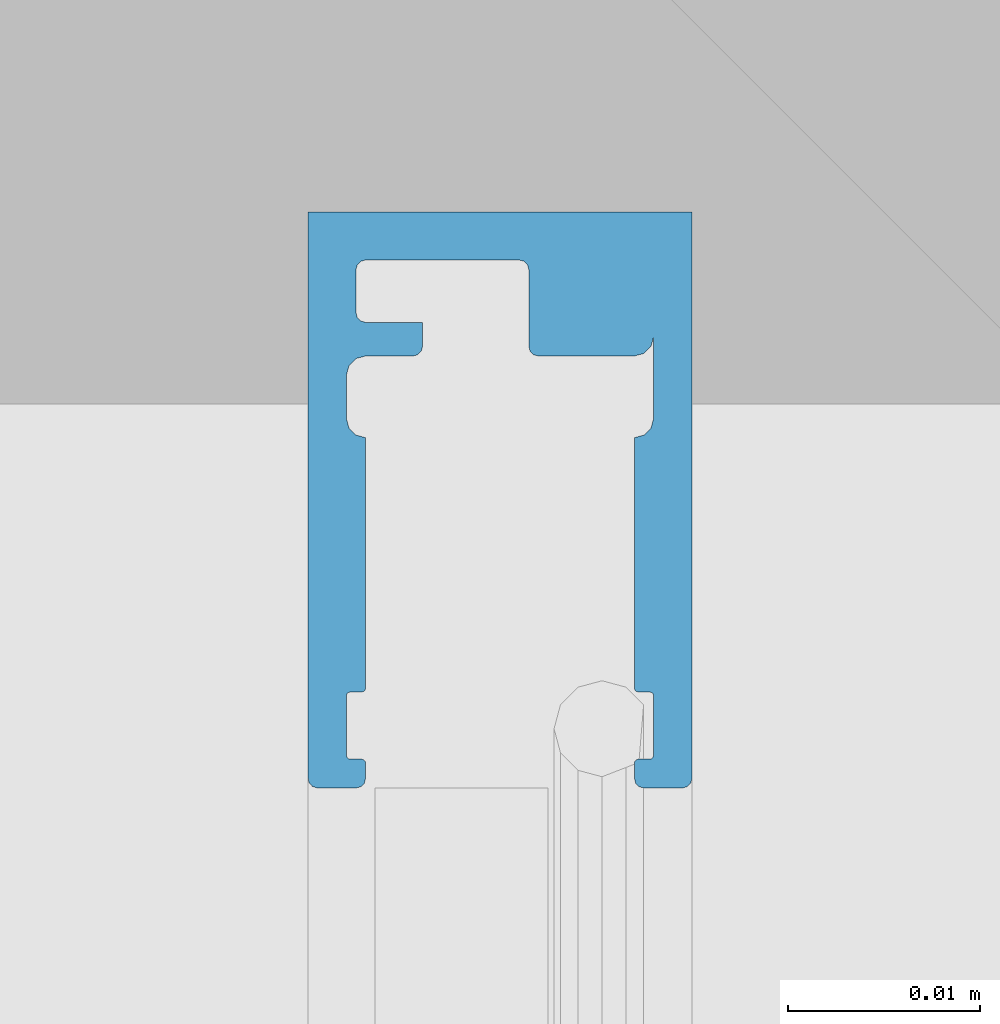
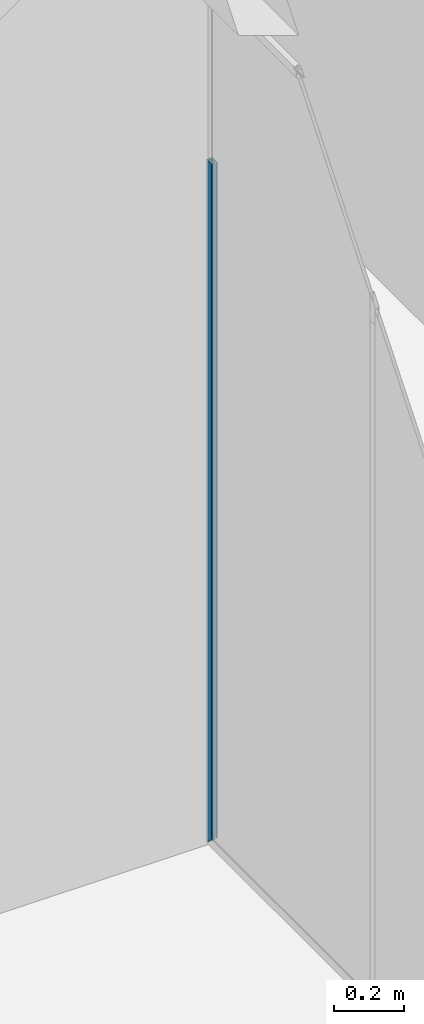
# One storey, part 50 of 387: 1 building element part, 2 elements without a shape of their own.
"""IFC2X3 building model written with IfcOpenShell, lengths in millimetres."""

from ifc_helpers import new_model, entity, si_unit, converted_unit, derived_unit, money_unit, direction, frame, origin_with_axes, place, context, subcontext, project, spatial, faceted_brep, source, transform, mapped, material, type_object, element, aggregate, save


model = new_model("IFC2X3")

# Units and contexts
model_context = context("Model", 3, precision=0.01, world=origin_with_axes(), true_north=direction((0.0, 1.0)))
body_context = subcontext(model_context, "Body", "Model", "MODEL_VIEW")
ifc_project = project(units=[si_unit("LENGTHUNIT", "METRE", prefix="MILLI"), si_unit("AREAUNIT", "SQUARE_METRE"), si_unit("VOLUMEUNIT", "CUBIC_METRE"), converted_unit("PLANEANGLEUNIT", "DEGREE", entity("IfcPlaneAngleMeasure", 0.0174532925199), si_unit("PLANEANGLEUNIT", "RADIAN"), dimensions=[0, 0, 0, 0, 0, 0, 0]), si_unit("SOLIDANGLEUNIT", "STERADIAN"), money_unit("EUR"), converted_unit("TIMEUNIT", "Year", entity("IfcTimeMeasure", 31556926.0), si_unit("TIMEUNIT", "SECOND"), dimensions=[0, 0, 1, 0, 0, 0, 0]), si_unit("MASSUNIT", "GRAM", prefix="KILO"), si_unit("THERMODYNAMICTEMPERATUREUNIT", "DEGREE_CELSIUS"), si_unit("LUMINOUSINTENSITYUNIT", "LUMEN"), si_unit("ENERGYUNIT", "JOULE", prefix="MEGA"), derived_unit("THERMALCONDUCTANCEUNIT", [(si_unit("POWERUNIT", "WATT"), 1), (si_unit("LENGTHUNIT", "METRE"), -1), (si_unit("THERMODYNAMICTEMPERATUREUNIT", "KELVIN"), -1)]), derived_unit("SPECIFICHEATCAPACITYUNIT", [(si_unit("ENERGYUNIT", "JOULE"), 1), (si_unit("MASSUNIT", "GRAM", prefix="KILO"), -1), (si_unit("THERMODYNAMICTEMPERATUREUNIT", "KELVIN"), -1)]), derived_unit("MASSDENSITYUNIT", [(si_unit("MASSUNIT", "GRAM", prefix="KILO"), 1), (si_unit("VOLUMEUNIT", "CUBIC_METRE"), -1)])], contexts=[model_context])

# Site, building, storey
site_placement = place(None, origin_with_axes())
site = spatial("IfcSite", under=ifc_project, at=site_placement, Name="Puškini 31, Narva", CompositionType="ELEMENT")
building_placement = place(site_placement, origin_with_axes())
building = spatial("IfcBuilding", under=site, at=building_placement, Name="Narva Riigigümnaasium", CompositionType="ELEMENT")
storey_placement = place(building_placement, frame((0.0, 0.0, 2640.0), z_axis=(0.0, 0.0, 1.0), x_axis=(1.0, 0.0, 0.0)))
storey = spatial("IfcBuildingStorey", under=building, at=storey_placement, Name="2.korrus +2.64", CompositionType="ELEMENT", Elevation=2640.0)

# Curtain wall, member, building element part
curtain_wall_type = type_object("IfcCurtainWallType", Name="Curtain Wall Type", PredefinedType="NOTDEFINED")
curtain_wall_placement = place(storey_placement, frame((28369.9999994, 164166.500006, -9.21871734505e-06), z_axis=(0.0, 0.0, 1.0), x_axis=(1.0, 0.0, 0.0)))
curtain_wall = element("IfcCurtainWall", 1, at=curtain_wall_placement, inside=storey, type_object=curtain_wall_type, Name="G-SKLF-11")
member_type = type_object("IfcMemberType", Name="30 x 10", PredefinedType="MULLION")
member_placement = place(curtain_wall_placement, frame((4.14992484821e-08, 2333.4999946, 0.0), z_axis=(0.0, 0.0, 1.0), x_axis=(0.0, -1.0, 0.0)))
member = element("IfcMember", 2, at=member_placement, type_object=member_type, Name="G-SKLF-15-raam", ObjectType="MULLION")
aggregate(curtain_wall, [member])
ifc_material = material(Name="ET-04_Alumiinium")
shared_shape = source(origin_with_axes(), body_context, "Body", "Brep", [
    faceted_brep([(0.0, -9.99999999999, 0.0), (0.0, -9.99999999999, 2400.00000922), (0.0, 9.99999999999, 2400.00000922), (0.0, 9.99999999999, 0.0), (29.4424074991, -9.99999999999, 29.4424074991), (29.4424074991, -9.99999999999, 2400.00000922), (29.7157683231, -9.95182408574, 2400.00000922), (29.9224245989, -9.76651288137, 2400.00000922), (30.0, -9.5, 2400.00000922), (30.0, -7.49999999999, 2400.00000922), (29.9330127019, -7.24999999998, 2400.00000922), (29.75, -7.06698729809, 2400.00000922), (29.5, -6.99999999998, 2400.00000922), (28.7, -6.99999999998, 2400.00000922), (28.6, -7.02679491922, 2400.00000922), (28.5267949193, -7.09999999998, 2400.00000922), (28.5, -7.19999999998, 2400.00000922), (28.5, -7.79999999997, 2400.00000922), (28.4732050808, -7.89999999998, 2400.00000922), (28.4, -7.97320508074, 2400.00000922), (28.3, -7.99999999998, 2400.00000922), (25.2, -7.99999999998, 2400.00000922), (25.1, -7.97320508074, 2400.00000922), (25.0267949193, -7.89999999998, 2400.00000922), (25.0, -7.79999999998, 2400.00000922), (25.0, -7.20000000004, 2400.00000922), (24.9732050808, -7.10000000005, 2400.00000922), (24.9, -7.02679491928, 2400.00000922), (24.8, -7.00000000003, 2400.00000922), (11.7527616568, -6.99999999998, 2400.00000922), (11.6187870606, -7.49999999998, 2400.00000922), (11.2527616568, -7.86602540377, 2400.00000922), (10.7527616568, -7.99999999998, 2400.00000922), (8.49999999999, -8.00000000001, 2400.00000922), (7.99999999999, -7.86602540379, 2400.00000922), (7.63397459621, -7.50000000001, 2400.00000922), (7.49999999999, -7.00000000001, 2400.00000922), (7.49999999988, -4.5336921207, 2400.00000922), (7.43301270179, -4.28369212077, 2400.00000922), (7.24999999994, -4.10067941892, 2400.00000922), (7.0, -4.03369212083, 2400.00000922), (5.74723834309, -4.03369212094, 2400.00000922), (5.7472383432, -6.99999999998, 2400.00000922), (5.6802510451, -7.24999999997, 2400.00000922), (5.49723834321, -7.43301270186, 2400.00000922), (5.24723834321, -7.49999999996, 2400.00000922), (3.0, -7.49999999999, 2400.00000922), (2.75, -7.43301270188, 2400.00000922), (2.56698729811, -7.24999999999, 2400.00000922), (2.5, -6.99999999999, 2400.00000922), (2.5, 1.00339466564, 2400.00000922), (2.56811176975, 1.25195735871, 2400.00000922), (2.75096907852, 1.43357737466, 2400.00000922), (2.99998847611, 1.50000000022, 2400.00000922), (6.99999999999, 1.50000000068, 2400.00000922), (7.24999999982, 1.56698729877, 2400.00000922), (7.43301270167, 1.75000000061, 2400.00000922), (7.49999999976, 2.00000000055, 2400.00000922), (7.49999999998, 6.99999999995, 2400.00000922), (7.36602540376, 7.49999999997, 2400.00000922), (6.99999999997, 7.86602540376, 2400.00000922), (6.49999999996, 7.99999999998, 2400.00000922), (10.7527616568, 7.99999999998, 2400.00000922), (11.2527616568, 7.86602540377, 2400.00000922), (11.6187870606, 7.49999999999, 2400.00000922), (11.7527616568, 6.99999999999, 2400.00000922), (24.8, 7.00000000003, 2400.00000922), (24.9, 7.02679491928, 2400.00000922), (24.9732050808, 7.10000000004, 2400.00000922), (25.0, 7.20000000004, 2400.00000922), (25.0, 7.8, 2400.00000922), (25.0267949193, 7.90000000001, 2400.00000922), (25.1, 7.97320508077, 2400.00000922), (25.2, 8.00000000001, 2400.00000922), (28.3, 8.00000000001, 2400.00000922), (28.4104265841, 7.9658128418, 2400.00000922), (28.4849473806, 7.87744178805, 2400.00000922), (28.5, 7.76282847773, 2400.00000922), (28.5, 7.24760028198, 2400.00000922), (28.5, 7.19999999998, 2400.00000922), (28.5267949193, 7.09999999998, 2400.00000922), (28.6, 7.02679491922, 2400.00000922), (28.7, 6.99999999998, 2400.00000922), (28.7609519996, 6.99999999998, 2400.00000922), (29.5, 7.00000000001, 2400.00000922), (29.75, 7.06698729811, 2400.00000922), (29.9330127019, 7.24999999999, 2400.00000922), (30.0, 7.49999999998, 2400.00000922), (30.0, 9.5, 2400.00000922), (29.9330127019, 9.75000000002, 2400.00000922), (29.75, 9.93301270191, 2400.00000922), (29.5, 10.0, 2400.00000922), (29.5, 10.0, 29.5), (29.75, 9.93301270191, 29.75), (29.9330127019, 9.75000000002, 29.9330127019), (30.0, 9.5, 30.0), (30.0, 7.49999999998, 30.0), (29.9330127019, 7.24999999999, 29.9330127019), (29.75, 7.06698729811, 29.75), (29.5, 7.00000000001, 29.5), (28.7609519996, 6.99999999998, 28.7609519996), (28.7, 6.99999999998, 28.7), (28.6, 7.02679491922, 28.6), (28.5267949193, 7.09999999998, 28.5267949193), (28.5, 7.19999999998, 28.5), (28.5, 7.24760028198, 28.5), (28.5, 7.76282847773, 28.5), (28.4849473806, 7.87744178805, 28.4849473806), (28.4104265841, 7.9658128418, 28.4104265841), (28.3, 8.00000000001, 28.3), (25.2, 8.00000000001, 25.2), (25.1, 7.97320508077, 25.1), (25.0267949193, 7.90000000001, 25.0267949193), (25.0, 7.8, 25.0), (25.0, 7.20000000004, 25.0), (24.9732050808, 7.10000000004, 24.9732050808), (24.9, 7.02679491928, 24.9), (24.8, 7.00000000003, 24.8), (11.7527616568, 6.99999999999, 11.7527616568), (11.6187870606, 7.49999999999, 11.6187870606), (11.2527616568, 7.86602540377, 11.2527616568), (10.7527616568, 7.99999999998, 10.7527616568), (6.49999999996, 7.99999999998, 6.49999999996), (6.99999999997, 7.86602540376, 6.99999999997), (7.36602540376, 7.49999999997, 7.36602540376), (7.49999999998, 6.99999999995, 7.49999999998), (7.49999999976, 2.00000000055, 7.49999999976), (7.43301270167, 1.75000000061, 7.43301270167), (7.24999999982, 1.56698729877, 7.24999999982), (6.99999999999, 1.50000000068, 6.99999999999), (2.99998847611, 1.50000000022, 2.99998847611), (2.75096907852, 1.43357737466, 2.75096907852), (2.56811176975, 1.25195735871, 2.56811176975), (2.5, 1.00339466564, 2.5), (2.5, -6.99999999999, 2.5), (2.56698729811, -7.24999999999, 2.56698729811), (2.75, -7.43301270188, 2.75), (3.0, -7.49999999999, 3.0), (5.24723834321, -7.49999999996, 5.24723834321), (5.49723834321, -7.43301270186, 5.49723834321), (5.6802510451, -7.24999999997, 5.6802510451), (5.7472383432, -6.99999999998, 5.7472383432), (5.74723834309, -4.03369212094, 5.74723834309), (7.0, -4.03369212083, 7.0), (7.24999999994, -4.10067941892, 7.24999999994), (7.43301270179, -4.28369212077, 7.43301270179), (7.49999999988, -4.5336921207, 7.49999999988), (7.49999999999, -7.00000000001, 7.49999999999), (7.63397459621, -7.50000000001, 7.63397459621), (7.99999999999, -7.86602540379, 7.99999999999), (8.49999999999, -8.00000000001, 8.49999999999), (10.7527616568, -7.99999999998, 10.7527616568), (11.2527616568, -7.86602540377, 11.2527616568), (11.6187870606, -7.49999999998, 11.6187870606), (11.7527616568, -6.99999999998, 11.7527616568), (24.8, -7.00000000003, 24.8), (24.9, -7.02679491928, 24.9), (24.9732050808, -7.10000000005, 24.9732050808), (25.0, -7.20000000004, 25.0), (25.0, -7.79999999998, 25.0), (25.0267949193, -7.89999999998, 25.0267949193), (25.1, -7.97320508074, 25.1), (25.2, -7.99999999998, 25.2), (28.3, -7.99999999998, 28.3), (28.4, -7.97320508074, 28.4), (28.4732050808, -7.89999999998, 28.4732050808), (28.5, -7.79999999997, 28.5), (28.5, -7.19999999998, 28.5), (28.5267949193, -7.09999999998, 28.5267949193), (28.6, -7.02679491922, 28.6), (28.7, -6.99999999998, 28.7), (29.5, -6.99999999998, 29.5), (29.75, -7.06698729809, 29.75), (29.9330127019, -7.24999999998, 29.9330127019), (30.0, -7.49999999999, 30.0), (30.0, -9.5, 30.0), (29.9224245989, -9.76651288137, 29.9224245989), (29.7157683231, -9.95182408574, 29.7157683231)], [[[0, 1, 2, 3]], [[4, 5, 1, 0]], [[2, 1, 5, 6, 7, 8, 9, 10, 11, 12, 13, 14, 15, 16, 17, 18, 19, 20, 21, 22, 23, 24, 25, 26, 27, 28, 29, 30, 31, 32, 33, 34, 35, 36, 37, 38, 39, 40, 41, 42, 43, 44, 45, 46, 47, 48, 49, 50, 51, 52, 53, 54, 55, 56, 57, 58, 59, 60, 61, 62, 63, 64, 65, 66, 67, 68, 69, 70, 71, 72, 73, 74, 75, 76, 77, 78, 79, 80, 81, 82, 83, 84, 85, 86, 87, 88, 89, 90, 91]], [[3, 2, 91, 92]], [[3, 92, 93, 94, 95, 96, 97, 98, 99, 100, 101, 102, 103, 104, 105, 106, 107, 108, 109, 110, 111, 112, 113, 114, 115, 116, 117, 118, 119, 120, 121, 122, 123, 124, 125, 126, 127, 128, 129, 130, 131, 132, 133, 134, 135, 136, 137, 138, 139, 140, 141, 142, 143, 144, 145, 146, 147, 148, 149, 150, 151, 152, 153, 154, 155, 156, 157, 158, 159, 160, 161, 162, 163, 164, 165, 166, 167, 168, 169, 170, 171, 172, 173, 174, 175, 176, 177, 4, 0]], [[177, 6, 5, 4]], [[176, 7, 6, 177]], [[175, 8, 7, 176]], [[174, 9, 8, 175]], [[173, 10, 9, 174]], [[172, 11, 10, 173]], [[171, 12, 11, 172]], [[170, 13, 12, 171]], [[169, 14, 13, 170]], [[168, 15, 14, 169]], [[167, 16, 15, 168]], [[166, 17, 16, 167]], [[165, 18, 17, 166]], [[164, 19, 18, 165]], [[163, 20, 19, 164]], [[162, 21, 20, 163]], [[161, 22, 21, 162]], [[160, 23, 22, 161]], [[159, 24, 23, 160]], [[158, 25, 24, 159]], [[157, 26, 25, 158]], [[156, 27, 26, 157]], [[155, 28, 27, 156]], [[154, 29, 28, 155]], [[153, 30, 29, 154]], [[152, 31, 30, 153]], [[151, 32, 31, 152]], [[150, 33, 32, 151]], [[149, 34, 33, 150]], [[148, 35, 34, 149]], [[147, 36, 35, 148]], [[146, 37, 36, 147]], [[145, 38, 37, 146]], [[144, 39, 38, 145]], [[143, 40, 39, 144]], [[142, 41, 40, 143]], [[141, 42, 41, 142]], [[140, 43, 42, 141]], [[139, 44, 43, 140]], [[138, 45, 44, 139]], [[137, 46, 45, 138]], [[136, 47, 46, 137]], [[135, 48, 47, 136]], [[134, 49, 48, 135]], [[133, 50, 49, 134]], [[132, 51, 50, 133]], [[131, 52, 51, 132]], [[130, 53, 52, 131]], [[129, 54, 53, 130]], [[128, 55, 54, 129]], [[127, 56, 55, 128]], [[126, 57, 56, 127]], [[125, 58, 57, 126]], [[124, 59, 58, 125]], [[123, 60, 59, 124]], [[122, 61, 60, 123]], [[121, 62, 61, 122]], [[120, 63, 62, 121]], [[119, 64, 63, 120]], [[118, 65, 64, 119]], [[117, 66, 65, 118]], [[116, 67, 66, 117]], [[115, 68, 67, 116]], [[114, 69, 68, 115]], [[113, 70, 69, 114]], [[112, 71, 70, 113]], [[111, 72, 71, 112]], [[110, 73, 72, 111]], [[109, 74, 73, 110]], [[108, 75, 74, 109]], [[107, 76, 75, 108]], [[106, 77, 76, 107]], [[105, 78, 77, 106]], [[104, 79, 78, 105]], [[103, 80, 79, 104]], [[102, 81, 80, 103]], [[101, 82, 81, 102]], [[100, 83, 82, 101]], [[99, 84, 83, 100]], [[98, 85, 84, 99]], [[97, 86, 85, 98]], [[96, 87, 86, 97]], [[95, 88, 87, 96]], [[94, 89, 88, 95]], [[93, 90, 89, 94]], [[92, 91, 90, 93]]]),
])
building_element_part_placement = place(member_placement, origin_with_axes())
building_element_part = element("IfcBuildingElementPart", 3, at=building_element_part_placement, material=ifc_material, Name="ET-04_Alumiinium", context=body_context, shape_type="MappedRepresentation", body=[
    mapped(shared_shape, transform((0.0, 0.0, 0.0))),
])
aggregate(member, [building_element_part])

save(model, "model.ifc")
